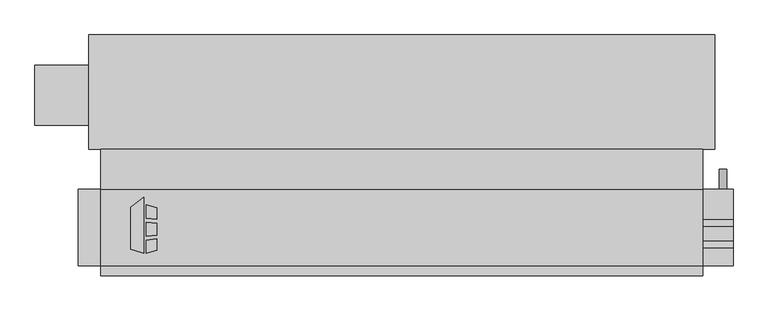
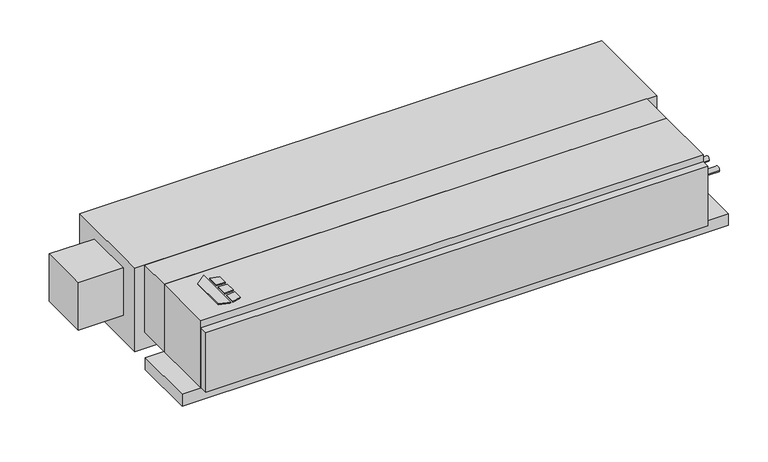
"""IFC4 building model written with IfcOpenShell, lengths in millimetres: proxy geometry, Concealed_Horizontal_Fan_Coil_Unit_With_Plenum_-_CPY_-_IEC_-_2-Pipe_Cool-EHeat_RH_2022 : Size 12 - 277v/60Hz/1Ph - 4 Row 10.0kW."""

import ifcopenshell
import ifcopenshell.guid

model = None  # the IFC model being written
_history = None  # IfcOwnerHistory: only IFC2X3 demands one
_inside = {}  # id of a spatial element -> (the spatial element, [elements in it])
_under = {}  # id of a project, library or spatial element -> (it, [spatial elements below it])
_declared = {}  # id of a project -> (the project, [libraries it declares])
_typed = {}  # id of a type object -> (the type object, [elements of that type])
_made_of = {}  # id of a material, layer set ... -> (it, [elements and type objects made of it])


def new_model(schema):
    """Start an empty IFC model of exactly this schema.

    Asked for "IFC4X3", IfcOpenShell would pick the latest addendum, in which some entities
    have other attributes; the version numbers below select the first issue.
    IFC2X3 requires an IfcOwnerHistory on every rooted entity: one is made here for all.
    """
    global model, _history
    if schema == "IFC4X3":
        model = ifcopenshell.file(schema_version=(4, 3, 0, 0))
    else:
        model = ifcopenshell.file(schema=schema)
    _inside.clear()
    _under.clear()
    _declared.clear()
    _typed.clear()
    _made_of.clear()
    _history = None
    if model.schema == "IFC2X3":
        org = make("IfcOrganization", Name="unknown")
        user = make(
            "IfcPersonAndOrganization",
            ThePerson=make("IfcPerson", FamilyName="unknown"),
            TheOrganization=org,
        )
        app = make(
            "IfcApplication",
            ApplicationDeveloper=org,
            Version="unknown",
            ApplicationFullName="unknown",
            ApplicationIdentifier="unknown",
        )
        _history = make(
            "IfcOwnerHistory",
            OwningUser=user,
            OwningApplication=app,
            ChangeAction="ADDED",
            CreationDate=0,
        )
    return model


def make(cls, **values):
    """One entity of the class cls with the attributes given. An attribute that is None is left unset."""
    return model.create_entity(
        cls, **{name: value for name, value in values.items() if value is not None}
    )


def rooted(cls, **values):
    """An entity with a GlobalId (a new one), such as an element, a storey or a relation."""
    return make(cls, GlobalId=ifcopenshell.guid.new(), OwnerHistory=_history, **values)


def si_unit(unit_type, name, prefix=None):
    """IfcSIUnit, for example si_unit("LENGTHUNIT", "METRE", prefix="MILLI")."""
    return make("IfcSIUnit", UnitType=unit_type, Prefix=prefix, Name=name)


def assignment(units):
    """IfcUnitAssignment: the units of a project."""
    return None if units is None else make("IfcUnitAssignment", Units=units)


def point(xyz):
    """IfcCartesianPoint."""
    return None if xyz is None else make("IfcCartesianPoint", Coordinates=xyz)


def direction(xyz):
    """IfcDirection."""
    return None if xyz is None else make("IfcDirection", DirectionRatios=xyz)


def frame(location, z_axis=None, x_axis=None):
    """IfcAxis2Placement3D, a coordinate frame: its origin and axes. An axis left out is left unset."""
    return make(
        "IfcAxis2Placement3D",
        Location=point(location),
        Axis=direction(z_axis),
        RefDirection=direction(x_axis),
    )


def frame_2d(location, x_axis=None):
    """IfcAxis2Placement2D, a coordinate frame in the plane: its origin and x axis."""
    return make(
        "IfcAxis2Placement2D", Location=point(location), RefDirection=direction(x_axis)
    )


def origin():
    """The frame at (0, 0, 0) with its axes left unset."""
    return frame((0.0, 0.0, 0.0))


def origin_with_axes():
    """The frame at (0, 0, 0) with the z axis (0, 0, 1) and the x axis (1, 0, 0) written out."""
    return frame((0.0, 0.0, 0.0), z_axis=(0.0, 0.0, 1.0), x_axis=(1.0, 0.0, 0.0))


def place(relative_to, where):
    """IfcLocalPlacement: puts the frame where relative to a parent placement (None: the world)."""
    return make(
        "IfcLocalPlacement", PlacementRelTo=relative_to, RelativePlacement=where
    )


def context(
    kind, dimensions, precision=None, world=None, true_north=None, identifier=None
):
    """IfcGeometricRepresentationContext, for example the 3D "Model" context."""
    return make(
        "IfcGeometricRepresentationContext",
        ContextIdentifier=identifier,
        ContextType=kind,
        CoordinateSpaceDimension=dimensions,
        Precision=precision,
        WorldCoordinateSystem=world,
        TrueNorth=true_north,
    )


def project(units=None, contexts=None):
    """IfcProject with its units and contexts."""
    return rooted(
        "IfcProject",
        Name="project",
        RepresentationContexts=contexts,
        UnitsInContext=assignment(units),
    )


def spatial(cls, under=None, at=None, **own):
    """A site, building, storey or space (cls), placed at a placement, below another one or the project."""
    s = rooted(cls, ObjectPlacement=at, **own)
    if under is not None:
        _under.setdefault(under.id(), (under, []))[1].append(s)
    return s


def polyline(points):
    """IfcPolyline through the points."""
    return make("IfcPolyline", Points=[point(p) for p in points])


def circle_curve(where, radius):
    """IfcCircle in the frame where."""
    return make("IfcCircle", Position=where, Radius=radius)


def trimmed(basis, trim1, trim2, sense, master):
    """IfcTrimmedCurve: the piece of a basis curve between two trims."""
    return make(
        "IfcTrimmedCurve",
        BasisCurve=basis,
        Trim1=trim1,
        Trim2=trim2,
        SenseAgreement=sense,
        MasterRepresentation=master,
    )


def segment(curve, same_sense, transition):
    """IfcCompositeCurveSegment."""
    return make(
        "IfcCompositeCurveSegment",
        Transition=transition,
        SameSense=same_sense,
        ParentCurve=curve,
    )


def composite_curve(segments, self_intersect=None):
    """IfcCompositeCurve: segments joined end to end."""
    return make("IfcCompositeCurve", Segments=segments, SelfIntersect=self_intersect)


def outline(outer, holes=None, kind="AREA"):
    """IfcArbitraryClosedProfileDef: a profile drawn as a closed curve; with holes, ...WithVoids."""
    if holes is None:
        return make("IfcArbitraryClosedProfileDef", ProfileType=kind, OuterCurve=outer)
    return make(
        "IfcArbitraryProfileDefWithVoids",
        ProfileType=kind,
        OuterCurve=outer,
        InnerCurves=holes,
    )


def extrude(swept, where, along, depth):
    """IfcExtrudedAreaSolid: the profile swept, set in the frame where, extruded along a direction by depth."""
    return make(
        "IfcExtrudedAreaSolid",
        SweptArea=swept,
        Position=where,
        ExtrudedDirection=direction(along),
        Depth=depth,
    )


def shape(context_of_items, identifier, shape_type, items):
    """IfcShapeRepresentation: the items that make up one representation, for example the "Body"."""
    return make(
        "IfcShapeRepresentation",
        ContextOfItems=context_of_items,
        RepresentationIdentifier=identifier,
        RepresentationType=shape_type,
        Items=items,
    )


def source(mapping_origin, context_of_items, identifier, shape_type, items):
    """IfcRepresentationMap: a shape defined once, which mapped items show again and again."""
    return make(
        "IfcRepresentationMap",
        MappingOrigin=mapping_origin,
        MappedRepresentation=shape(context_of_items, identifier, shape_type, items),
    )


def transform(
    local_origin,
    x_axis=None,
    y_axis=None,
    z_axis=None,
    scale=None,
    scale2=None,
    scale3=None,
    uniform=True,
):
    """IfcCartesianTransformationOperator3D, or its non-uniform kind. x_axis, y_axis, z_axis: its Axis1, 2, 3."""
    if uniform:
        return make(
            "IfcCartesianTransformationOperator3D",
            Axis1=direction(x_axis),
            Axis2=direction(y_axis),
            LocalOrigin=point(local_origin),
            Scale=scale,
            Axis3=direction(z_axis),
        )
    return make(
        "IfcCartesianTransformationOperator3DnonUniform",
        Axis1=direction(x_axis),
        Axis2=direction(y_axis),
        LocalOrigin=point(local_origin),
        Scale=scale,
        Axis3=direction(z_axis),
        Scale2=scale2,
        Scale3=scale3,
    )


def mapped(mapping_source, mapping_target):
    """IfcMappedItem: shows the shape of a source again, moved by a transform."""
    return make(
        "IfcMappedItem", MappingSource=mapping_source, MappingTarget=mapping_target
    )


def made_of(thing, what):
    """Note that an element or type object is made of a material, layer set ...; save() writes the relation."""
    if what is not None:
        _made_of.setdefault(what.id(), (what, []))[1].append(thing)
    return thing


def element(
    cls,
    number,
    at=None,
    inside=None,
    cuts=None,
    type_object=None,
    material=None,
    context=None,
    identifier="Body",
    shape_type=None,
    held_by="IfcProductDefinitionShape",
    body=None,
    shapes=None,
    **own,
):
    """One element of the class cls, such as IfcWall. Its Tag is "e" and its number.

    at: its placement. inside: the storey or other place that contains it. cuts: it is an
    opening in that element (IfcRelVoidsElement). A single representation is given by context,
    identifier, shape_type and body (its items); several are given by shapes. held_by: the class
    of the entity that holds the representations. save() writes the other relations.
    """
    e = rooted(cls, Tag="e%d" % number, ObjectPlacement=at, **own)
    if body is not None:
        shapes = [shape(context, identifier, shape_type, body)]
    if shapes is not None:
        e.Representation = make(held_by, Representations=shapes)
    if inside is not None:
        _inside.setdefault(inside.id(), (inside, []))[1].append(e)
    if cuts is not None:
        rooted(
            "IfcRelVoidsElement", RelatingBuildingElement=cuts, RelatedOpeningElement=e
        )
    if type_object is not None:
        _typed.setdefault(type_object.id(), (type_object, []))[1].append(e)
    return made_of(e, material)


def aggregate(whole, parts):
    """IfcRelAggregates: a whole, such as a stair, and the parts it consists of."""
    return rooted("IfcRelAggregates", RelatingObject=whole, RelatedObjects=parts)


def save(model, path):
    """Write the relations noted so far, then the file.

    IfcRelAggregates (storeys below a building ...), IfcRelContainedInSpatialStructure (elements
    in a storey), IfcRelDefinesByType, IfcRelAssociatesMaterial and IfcRelDeclares: one each for
    every whole, place, type object, material and project.
    """
    for whole, parts in _under.values():
        aggregate(whole, parts)
    for where, things in _inside.values():
        rooted(
            "IfcRelContainedInSpatialStructure",
            RelatedElements=things,
            RelatingStructure=where,
        )
    for kind, things in _typed.values():
        rooted("IfcRelDefinesByType", RelatedObjects=things, RelatingType=kind)
    for what, things in _made_of.values():
        rooted("IfcRelAssociatesMaterial", RelatedObjects=things, RelatingMaterial=what)
    for by, libraries in _declared.values():
        rooted("IfcRelDeclares", RelatingContext=by, RelatedDefinitions=libraries)
    model.write(path)


def mechanical_equipment_3fbe97c3(model_context):
    return source(origin(), model_context, "Body", "SweptSolid", [
        extrude(outline(polyline([(-533.4, -186.6953476), (-500.8417033, -161.2580184), (-500.8417033, -303.2125), (-533.4, -292.9929201), (-533.4, -186.6953476)])), origin_with_axes(), (0.0, 0.0, 1.0), 3.175),
        extrude(outline(polyline([(-494.0833703, -214.567352), (-494.0833703, -180.0874379), (-468.0019761, -188.2740115), (-468.0019761, -217.7697446), (-494.0833703, -214.567352)])), origin_with_axes(), (0.0, 0.0, 1.0), 3.175),
        extrude(outline(polyline([(-468.0019761, -296.2240115), (-494.0833703, -303.2125), (-494.0833703, -269.9911996), (-468.0019761, -266.4493564), (-468.0019761, -296.2240115)])), origin_with_axes(), (0.0, 0.0, 1.0), 3.175),
        extrude(outline(polyline([(-468.0019761, -226.8513277), (-468.0019761, -258.101483), (-494.0833703, -260.842748), (-494.0833703, -224.9850378), (-468.0019761, -226.8513277)])), origin_with_axes(), (0.0, 0.0, 1.0), 3.175),
        extrude(outline(composite_curve([segment(trimmed(circle_curve(frame_2d((-280.9875, -104.775)), 7.9375), [point((-273.05, -104.775))], [point((-288.925, -104.775))], False, "CARTESIAN"), True, "CONTINUOUS"), segment(trimmed(circle_curve(frame_2d((-280.9875, -104.775)), 7.9375), [point((-288.925, -104.775))], [point((-273.05, -104.775))], False, "CARTESIAN"), True, "CONTINUOUS")], self_intersect=False)), frame((914.4, 0.0, 0.0), z_axis=(1.0, 0.0, 0.0), x_axis=(0.0, 1.0, 0.0)), (0.0, 0.0, 1.0), 76.2),
        extrude(outline(composite_curve([segment(trimmed(circle_curve(frame_2d((-227.0125, -104.775)), 7.9375), [point((-219.075, -104.775))], [point((-234.95, -104.775))], False, "CARTESIAN"), True, "CONTINUOUS"), segment(trimmed(circle_curve(frame_2d((-227.0125, -104.775)), 7.9375), [point((-234.95, -104.775))], [point((-219.075, -104.775))], False, "CARTESIAN"), True, "CONTINUOUS")], self_intersect=False)), frame((914.4, 0.0, 0.0), z_axis=(1.0, 0.0, 0.0), x_axis=(0.0, 1.0, 0.0)), (0.0, 0.0, 1.0), 76.2),
        extrude(outline(composite_curve([segment(trimmed(circle_curve(frame_2d((-241.3, 965.2)), 9.525), [point((-241.3, 955.675))], [point((-241.3, 974.725))], False, "CARTESIAN"), True, "CONTINUOUS"), segment(trimmed(circle_curve(frame_2d((-241.3, 965.2)), 9.525), [point((-241.3, 974.725))], [point((-241.3, 955.675))], False, "CARTESIAN"), True, "CONTINUOUS")], self_intersect=False)), frame((0.0, -141.2875, 0.0), z_axis=(0.0, 1.0, 0.0), x_axis=(0.0, 0.0, 1.0)), (0.0, 0.0, 1.0), 50.8),
        extrude(outline(polyline([(-609.6, -39.6875), (914.4, -39.6875), (914.4, -141.2875), (-609.6, -141.2875), (-609.6, -39.6875)])), frame((0.0, 0.0, -215.9), z_axis=(0.0, 0.0, 1.0), x_axis=(1.0, 0.0, 0.0)), (0.0, 0.0, 1.0), 215.9),
        extrude(outline(polyline([(914.4, -360.3625), (-609.6, -360.3625), (-609.6, -334.9625), (914.4, -334.9625), (914.4, -360.3625)])), frame((0.0, 0.0, -212.725), z_axis=(0.0, 0.0, 1.0), x_axis=(1.0, 0.0, 0.0)), (0.0, 0.0, 1.0), 190.5),
        extrude(outline(polyline([(-776.2875, 20.6375), (-776.2875, 173.0375), (-639.7625, 173.0375), (-639.7625, 20.6375), (-776.2875, 20.6375)])), frame((0.0, 0.0, -187.325), z_axis=(0.0, 0.0, 1.0), x_axis=(1.0, 0.0, 0.0)), (0.0, 0.0, 1.0), 152.4),
        extrude(outline(polyline([(-639.7625, 249.2375), (944.5625, 249.2375), (944.5625, -39.6875), (-639.7625, -39.6875), (-639.7625, 249.2375)])), frame((0.0, 0.0, -266.7), z_axis=(0.0, 0.0, 1.0), x_axis=(1.0, 0.0, 0.0)), (0.0, 0.0, 1.0), 266.7),
        extrude(outline(polyline([(914.4, -141.2875), (914.4, -334.9625), (-609.6, -334.9625), (-609.6, -141.2875), (914.4, -141.2875)])), frame((0.0, 0.0, -215.9), z_axis=(0.0, 0.0, 1.0), x_axis=(1.0, 0.0, 0.0)), (0.0, 0.0, 1.0), 215.9),
        extrude(outline(polyline([(990.6, -141.2875), (990.6, -334.9625), (-666.75, -334.9625), (-666.75, -141.2875), (990.6, -141.2875)])), frame((0.0, 0.0, -254.0), z_axis=(0.0, 0.0, 1.0), x_axis=(1.0, 0.0, 0.0)), (0.0, 0.0, 1.0), 38.1),
    ])


if __name__ == "__main__":
    model = new_model("IFC4")
    model_context = context("Model", 3, world=origin())
    ifc_project = project(units=[si_unit("LENGTHUNIT", "METRE", prefix="MILLI")], contexts=[model_context])
    site = spatial("IfcSite", under=ifc_project)
    building = spatial("IfcBuilding", under=site)
    placement = place(None, origin())
    mechanical_equipment_shape = mechanical_equipment_3fbe97c3(model_context)
    element("IfcBuildingElementProxy", 1, Name="Concealed_Horizontal_Fan_Coil_Unit_With_Plenum_-_CPY_-_IEC_-_2-Pipe_Cool-EHeat_RH_2022 : Size 12 - 277v/60Hz/1Ph - 4 Row 10.0kW", ObjectType="Concealed_Horizontal_Fan_Coil_Unit_With_Plenum_-_CPY_-_IEC_-_2-Pipe_Cool-EHeat_RH_2022 : Size 12 - 277v/60Hz/1Ph - 4 Row 10.0kW", at=placement, inside=building, context=model_context, shape_type="MappedRepresentation", body=[
        mapped(mechanical_equipment_shape, transform((0.0, 0.0, 0.0), x_axis=(1.0, 0.0, 0.0), y_axis=(0.0, 1.0, 0.0), z_axis=(0.0, 0.0, 1.0))),
    ])
    save(model, "model.ifc")
